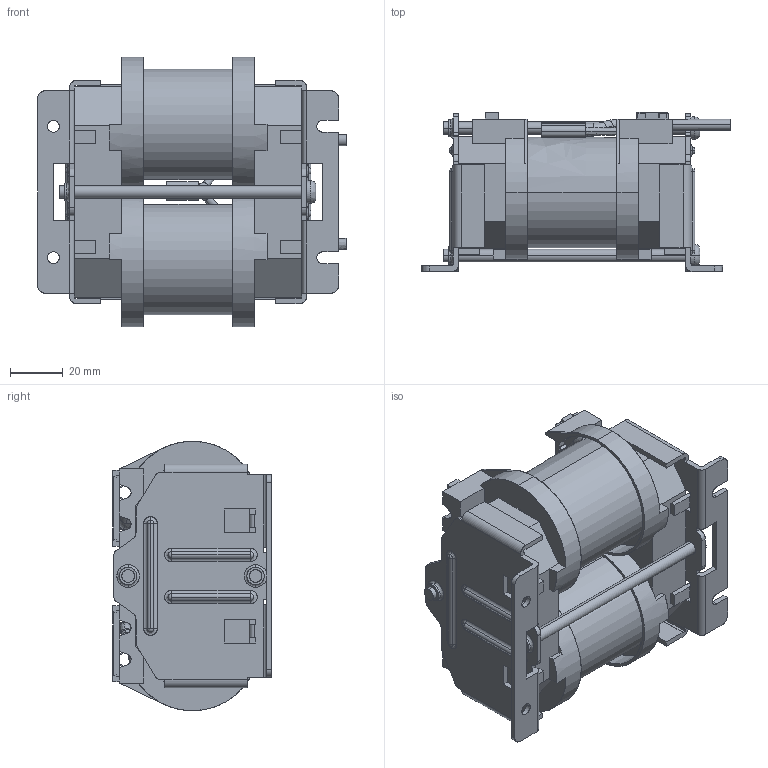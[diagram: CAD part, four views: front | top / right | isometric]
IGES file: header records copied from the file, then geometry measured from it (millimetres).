
Start section: SolidWorks IGES file using analytic representation for surfaces
Global section: file name: \\10.106.230.1\r&d file\05_COMP\02_Mechanical\10_Others\PV_RT 81\网络用3D模型\卧式模型\网络用模型\SP13218B-PH00SS20R(H-3KW_DCL-P).IGS,15HSolidWorks; native system: 2009; preprocessor: SolidWorks 2009; author: test; date: 120508.112449; units: millimetre
Bounding box: 117.5 x 60.4 x 102.5 mm (x, y, z)
Surface area: 98650.7 mm2 (no closed solid volume)
Topology: 0 solids, 0 shells, 798 faces, 9400 edges, 9377 vertices
Faces by surface type: bspline 510, revolution 288
